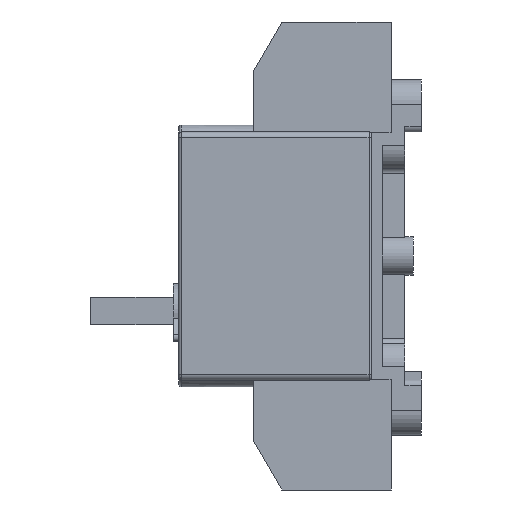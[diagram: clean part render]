
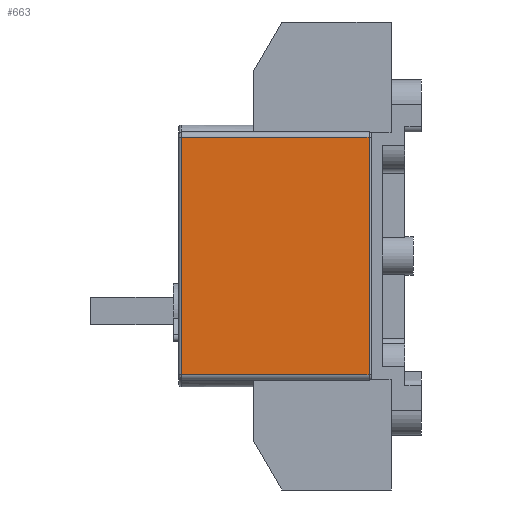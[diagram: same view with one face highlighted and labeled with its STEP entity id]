
A CAD part, left-side view. The second image highlights one B-rep face of the part: STEP entity #663.
In plain terms, the highlighted planar face has unit normal (-1, 0, 0).
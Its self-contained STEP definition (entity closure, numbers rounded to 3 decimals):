
#213=PLANE('',#6193);
#663=ADVANCED_FACE('',(#1015),#213,.F.);
#1015=FACE_OUTER_BOUND('',#1376,.T.);
#1376=EDGE_LOOP('',(#3059,#3060,#3061,#3062));
#3059=ORIENTED_EDGE('',*,*,#4595,.F.);
#3060=ORIENTED_EDGE('',*,*,#4581,.T.);
#3061=ORIENTED_EDGE('',*,*,#4596,.T.);
#3062=ORIENTED_EDGE('',*,*,#4284,.T.);
#3612=VERTEX_POINT('',#8809);
#3614=VERTEX_POINT('',#8815);
#3808=VERTEX_POINT('',#9520);
#3812=VERTEX_POINT('',#9552);
#4284=EDGE_CURVE('',#3612,#3614,#4953,.T.);
#4581=EDGE_CURVE('',#3808,#3812,#5106,.T.);
#4595=EDGE_CURVE('',#3808,#3614,#5113,.T.);
#4596=EDGE_CURVE('',#3812,#3612,#5114,.T.);
#4953=LINE('',#8816,#5470);
#5106=LINE('',#9553,#5623);
#5113=LINE('',#9605,#5630);
#5114=LINE('',#9607,#5631);
#5470=VECTOR('',#7122,1.);
#5623=VECTOR('',#7759,1.);
#5630=VECTOR('',#7784,1.);
#5631=VECTOR('',#7787,1.);
#6193=AXIS2_PLACEMENT_3D('',#9608,#7788,#7789);
#7122=DIRECTION('',(0.,0.,1.));
#7759=DIRECTION('',(0.,0.,-1.));
#7784=DIRECTION('',(0.,-1.,0.));
#7787=DIRECTION('',(0.,-1.,0.));
#7788=DIRECTION('',(1.,0.,0.));
#7789=DIRECTION('',(0.,0.,-1.));
#8809=CARTESIAN_POINT('',(-41.,1.,-43.));
#8815=CARTESIAN_POINT('',(-41.,1.,43.));
#8816=CARTESIAN_POINT('',(-41.,1.,-43.));
#9520=CARTESIAN_POINT('',(-41.,69.,43.));
#9552=CARTESIAN_POINT('',(-41.,69.,-43.));
#9553=CARTESIAN_POINT('',(-41.,69.,-43.));
#9605=CARTESIAN_POINT('',(-41.,35.,43.));
#9607=CARTESIAN_POINT('',(-41.,35.,-43.));
#9608=CARTESIAN_POINT('',(-41.,35.,-43.));
